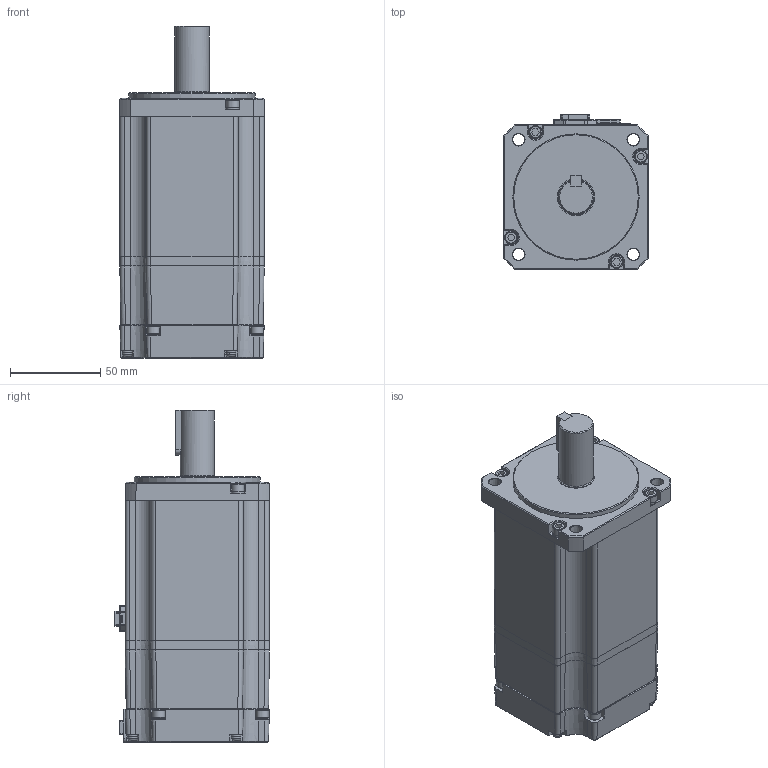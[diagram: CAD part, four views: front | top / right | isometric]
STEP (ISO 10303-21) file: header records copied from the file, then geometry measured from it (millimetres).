
FILE_DESCRIPTION (( 'STEP AP214' ), '1' );
FILE_NAME ('EM08GA002G04_Out Line(APM-EC10AM3K2).STEP', '2022-11-03T09:29:51', ( '' ), ( '' ), 'SwSTEP 2.0', 'SolidWorks 2021', '' );
FILE_SCHEMA (( 'AUTOMOTIVE_DESIGN' ));
Length unit declared in the file: millimetre
Products named in the file (1): EM08GA002G04_Out Line(APM-EC10AM3K2)
Bounding box: 80 x 85.9 x 184 mm (x, y, z)
Volume: 829047.1 mm3; surface area: 120153.1 mm2
Topology: 35 solids, 35 shells, 1580 faces, 3958 edges, 2512 vertices
Faces by surface type: plane 1122, cylinder 236, cone 148, torus 31, bspline 29, sphere 14
Full cylindrical faces by diameter (mm): 1.589 x1, 1.6 x9, 2 x2, 2.1 x2, 2.5 x8, 3 x8, 3.3 x8, 4 x12, 4.5 x8, 5.4 x8, 7 x8, 7.2 x8, 19 x1, 19.8 x1, 20.6 x1, 70 x1
Entity records: 64651 total; most frequent: CARTESIAN_POINT 10264, ORIENTED_EDGE 7488, DIRECTION 7199, EDGE_CURVE 3744, VECTOR 2769, LINE 2769, VERTEX_POINT 2461, AXIS2_PLACEMENT_3D 2215
